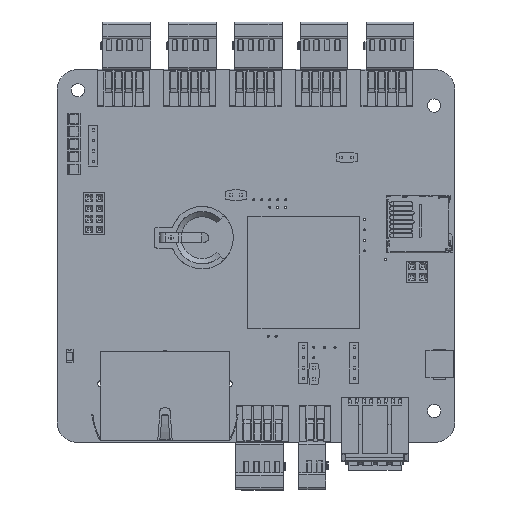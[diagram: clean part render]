
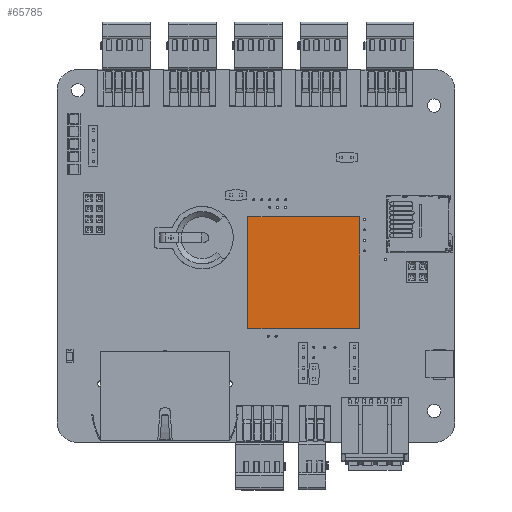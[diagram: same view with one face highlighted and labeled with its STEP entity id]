
A CAD part, top view. The second image highlights one B-rep face of the part: STEP entity #65785.
In plain terms, the highlighted planar face has unit normal (0, 0, 1).
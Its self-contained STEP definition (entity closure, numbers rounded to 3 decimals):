
#3963=PLANE('',#71103);
#7314=FACE_OUTER_BOUND('',#11479,.T.);
#11479=EDGE_LOOP('',(#56061,#56062,#56063,#56064));
#17343=LINE('',#103914,#24607);
#17346=LINE('',#103920,#24610);
#17349=LINE('',#103926,#24613);
#17352=LINE('',#103930,#24616);
#24607=VECTOR('',#85067,10.);
#24610=VECTOR('',#85072,10.);
#24613=VECTOR('',#85077,10.);
#24616=VECTOR('',#85082,10.);
#32852=VERTEX_POINT('',#103911);
#32853=VERTEX_POINT('',#103913);
#32855=VERTEX_POINT('',#103919);
#32857=VERTEX_POINT('',#103925);
#40921=EDGE_CURVE('',#32853,#32852,#17343,.T.);
#40924=EDGE_CURVE('',#32855,#32853,#17346,.T.);
#40927=EDGE_CURVE('',#32857,#32855,#17349,.T.);
#40930=EDGE_CURVE('',#32852,#32857,#17352,.T.);
#56061=ORIENTED_EDGE('',*,*,#40930,.T.);
#56062=ORIENTED_EDGE('',*,*,#40927,.T.);
#56063=ORIENTED_EDGE('',*,*,#40924,.T.);
#56064=ORIENTED_EDGE('',*,*,#40921,.T.);
#65785=ADVANCED_FACE('',(#7314),#3963,.T.);
#71103=AXIS2_PLACEMENT_3D('',#103931,#85083,#85084);
#85067=DIRECTION('',(0.,-1.,0.));
#85072=DIRECTION('',(-1.,0.,0.));
#85077=DIRECTION('',(0.,1.,0.));
#85082=DIRECTION('',(1.,0.,0.));
#85083=DIRECTION('center_axis',(0.,0.,1.));
#85084=DIRECTION('ref_axis',(1.,0.,0.));
#103911=CARTESIAN_POINT('',(-13.504,-13.486,2.));
#103913=CARTESIAN_POINT('',(-13.504,13.509,2.));
#103914=CARTESIAN_POINT('',(-13.504,-13.486,2.));
#103919=CARTESIAN_POINT('',(13.491,13.509,2.));
#103920=CARTESIAN_POINT('',(-13.504,13.509,2.));
#103925=CARTESIAN_POINT('',(13.491,-13.486,2.));
#103926=CARTESIAN_POINT('',(13.491,13.509,2.));
#103930=CARTESIAN_POINT('',(13.491,-13.486,2.));
#103931=CARTESIAN_POINT('Origin',(-0.007,0.011,
2.));
